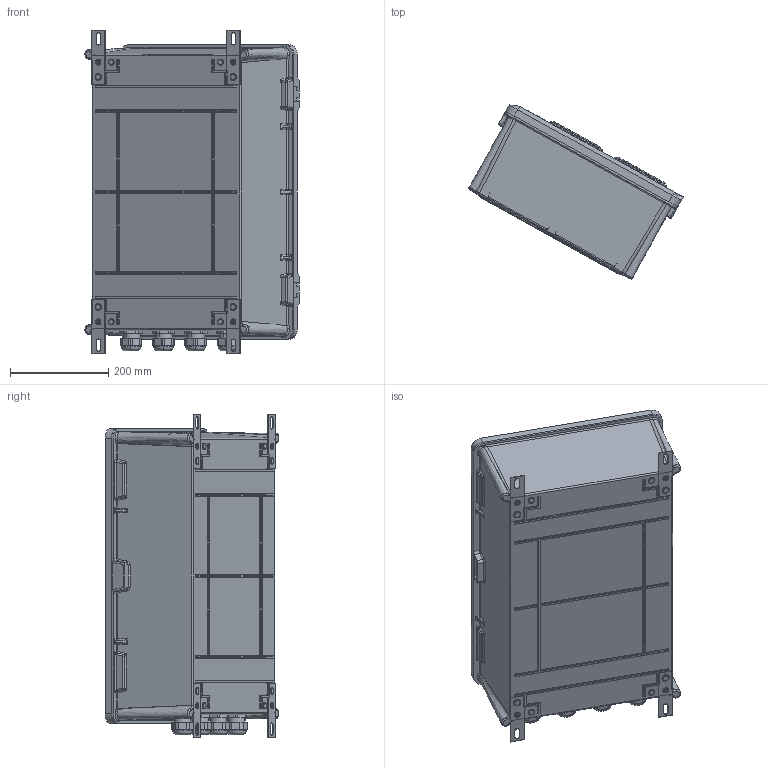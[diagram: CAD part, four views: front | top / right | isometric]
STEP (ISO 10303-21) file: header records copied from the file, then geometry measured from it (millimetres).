
FILE_DESCRIPTION(('TFLEX Exchange Step'),'2;1');
FILE_NAME('X2\0422\X0\406020Б-21.stp', '2022-11-08T11:27:19+03:00',('melekhin'),('Unknown organisation'),'TFLEX Exchange 2019.0','T-FLEX CAD','Unknown authorisation');
FILE_SCHEMA( ('AUTOMOTIVE_DESIGN { 1 0 10303 214 1 1 1 1 }') );
Length unit declared in the file: millimetre
Products named in the file (37): DIN-рейка 35x7.5; Винт самонарезающий 4,2х16 DIN 7504 M оц; Кронштейн металлический для DIN-рейки 270 (Т); Панель монтажная металлическая 40х60 (Т); Винт М 3.5x9x5; Окошко для двери круглое О-93 (И); <Корпуса (Т)>Корпуса Et:112; <Корпуса (Т)>Корпуса Et:110; <Корпуса (Т)>Корпуса Et:105; <Корпуса (Т)>Корпуса Et:104; <Корпуса (Т)>Корпуса Et:103; <Корпуса (Т)>Корпуса Et:102; <Корпуса (Т)>Корпуса Et:101; <Корпуса (Т)>Корпуса Et:100; <Корпуса (Т)>Корпуса Et:93; <Корпуса (Т)>Корпуса Et:92; <Корпуса (Т)>Корпуса Et:91; <Корпуса (Т)>Корпуса Et:90; <Корпуса (Т)>Корпуса Et:89; <Корпуса (Т)>Корпуса Et:88; <Корпуса (Т)>Корпуса Et:87; <Корпуса (Т)>Корпуса Et:86; <Корпуса (Т)>Корпуса Et:85; <Корпуса (Т)>Корпуса Et:84; <Корпуса (Т)>Корпуса Et:83; <Корпуса (Т)>Корпуса Et:82; <Корпуса (Т)>Корпуса Et:81; <Корпуса (Т)>Корпуса Et:80; <Корпуса (Т)>Корпуса Et:79; <Корпуса (Т)>Корпуса Et:78; <Корпуса (Т)>Корпуса Et:77; <Корпуса (Т)>Корпуса Et:76; <Корпуса (Т)>Корпуса Et:4; <Корпуса (Т)>Корпуса Et; BUFFER:000000EDD99FC6F0 
Assembly tree (118 placements, depth 5):
  BUFFER:000000EDD99FC6F0 
    <Корпуса (Т)>Корпуса Et
      DIN-рейка 35x7.5
      Кронштейн металлический для DIN-рейки 270 (Т)
        Винт самонарезающий 4,2х16 DIN 7504 M оц  x4
      Панель монтажная металлическая 40х60 (Т)
      Окошко для двери круглое О-93 (И)
        Винт М 3.5x9x5  x4
          Винт М 3.5x9x5
        Окошко для двери круглое О-93 (И)
      <Корпуса (Т)>Корпуса Et:112  x2
      <Корпуса (Т)>Корпуса Et:110  x8
      <Корпуса (Т)>Корпуса Et:105  x2
      <Корпуса (Т)>Корпуса Et:104  x2
      <Корпуса (Т)>Корпуса Et:103  x2
      <Корпуса (Т)>Корпуса Et:102  x2
      <Корпуса (Т)>Корпуса Et:101  x2
      <Корпуса (Т)>Корпуса Et:100  x2
      <Корпуса (Т)>Корпуса Et:93  x4
      <Корпуса (Т)>Корпуса Et:92  x4
      <Корпуса (Т)>Корпуса Et:91  x4
      <Корпуса (Т)>Корпуса Et:90  x4
      <Корпуса (Т)>Корпуса Et:89  x4
      <Корпуса (Т)>Корпуса Et:88  x4
      <Корпуса (Т)>Корпуса Et:87  x4
      <Корпуса (Т)>Корпуса Et:86  x4
      <Корпуса (Т)>Корпуса Et:85  x4
      <Корпуса (Т)>Корпуса Et:84  x4
      <Корпуса (Т)>Корпуса Et:83  x4
      <Корпуса (Т)>Корпуса Et:82  x4
      <Корпуса (Т)>Корпуса Et:81  x4
      <Корпуса (Т)>Корпуса Et:80  x4
      <Корпуса (Т)>Корпуса Et:79  x4
      <Корпуса (Т)>Корпуса Et:78  x4
      <Корпуса (Т)>Корпуса Et:77  x4
      <Корпуса (Т)>Корпуса Et:76  x4
      Винт М 3.5x9x5  x4
      Окошко для двери круглое О-93 (И)
      <Корпуса (Т)>Корпуса Et:4  x4
Bounding box: 435.49 x 353.27 x 658 mm (x, y, z)
Volume: 4699094 mm3; surface area: 2315818.4 mm2
Topology: 59 solids, 127 shells, 2977 faces, 7776 edges, 4968 vertices
Faces by surface type: plane 1545, cylinder 751, bspline 261, cone 222, torus 147, sphere 51
Full cylindrical faces by diameter (mm): 3 x4, 3.999 x1, 4 x24, 5.5 x4, 6 x4, 7 x4, 8 x4, 9.9 x2, 10 x2, 10.05 x2, 12 x8, 12.55 x2, 13 x2, 13.001 x2, 13.5 x2, 15 x4, 15.67 x2, 16 x2, 16.25 x2, 16.45 x2, 19.6 x2, 22 x2, 30 x2, 36 x4, 110 x2, 121 x2
Entity records: 110628 total; most frequent: CARTESIAN_POINT 62819, ORIENTED_EDGE 9951, DIRECTION 9228, EDGE_CURVE 5024, AXIS2_PLACEMENT_3D 3258, VERTEX_POINT 3214, VECTOR 2712, LINE 2712
